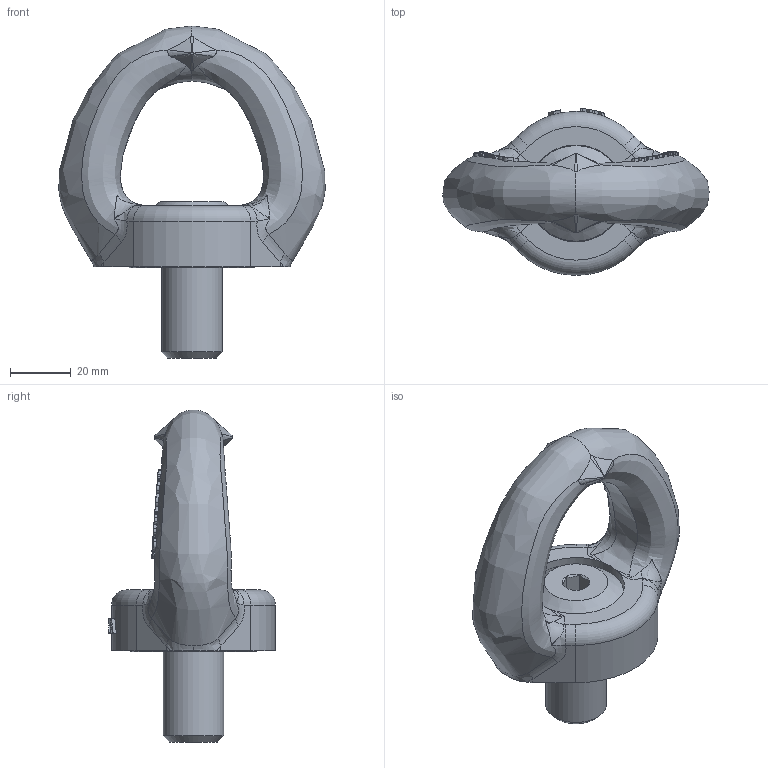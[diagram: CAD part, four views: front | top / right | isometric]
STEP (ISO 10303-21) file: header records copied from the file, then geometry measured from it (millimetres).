
FILE_DESCRIPTION(/* description */ (''),/* implementation_level */ '2;1');
FILE_NAME(/* name */ 'W:\CODIPRO\DOCUMENTS\Plans A NE PAS DIFFUSER !!!\Inventor\Standard Inventor\Produit Fini Inventor\SS_SEB\SS SEB M20.stp',/* time_stamp */ '2017-10-06T08:19:22+02:00',/* author */ ('rklenes'),/* organization */ (''),/* preprocessor_version */ 'ST-DEVELOPER v16.5',/* originating_system */ 'Autodesk Inventor 2017',/* authorisation */ '');
FILE_SCHEMA (('AUTOMOTIVE_DESIGN { 1 0 10303 214 3 1 1 }'));
Length unit declared in the file: millimetre
Products named in the file (4): SS SEB M20; SEM_2; SS_SEA_M20X44; SEE_M20A
Assembly tree (3 placements, depth 2):
  SS SEB M20
    SEM_2
    SS_SEA_M20X44
    SEE_M20A
Bounding box: 87.76 x 54.96 x 109.4 mm (x, y, z)
Volume: 109511.3 mm3; surface area: 27428.3 mm2
Topology: 3 solids, 3 shells, 414 faces, 1077 edges, 694 vertices
Faces by surface type: bspline 210, plane 143, cylinder 31, cone 24, torus 6
Full cylindrical faces by diameter (mm): 2 x1, 20 x3, 20.2 x1, 26 x3, 32 x2, 42 x2
Entity records: 25497 total; most frequent: CARTESIAN_POINT 16604, ORIENTED_EDGE 2064, DIRECTION 1307, EDGE_CURVE 1032, VERTEX_POINT 687, AXIS2_PLACEMENT_3D 493, EDGE_LOOP 483, B_SPLINE_CURVE_WITH_KNOTS 423
